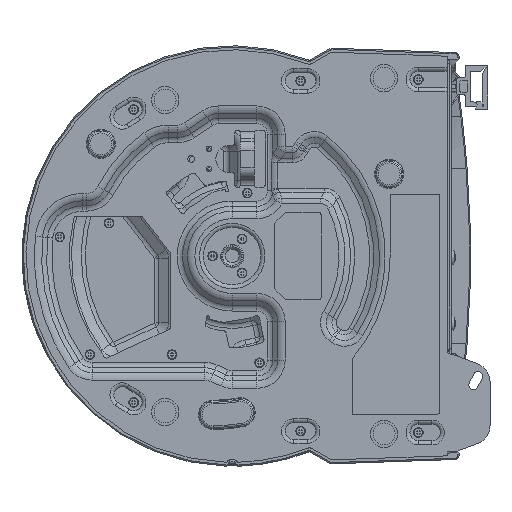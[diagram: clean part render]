
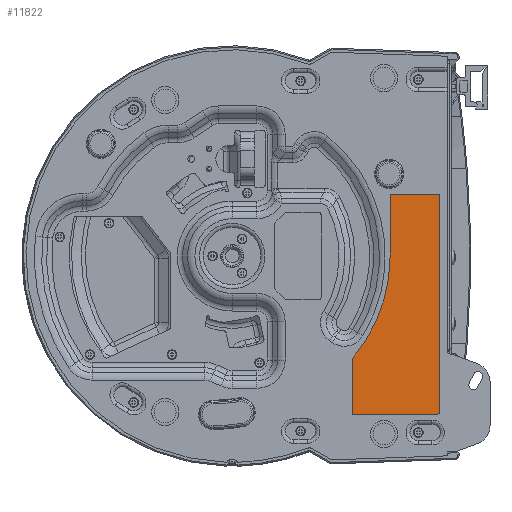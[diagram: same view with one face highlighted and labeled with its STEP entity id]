
A CAD part, front view. The second image highlights one B-rep face of the part: STEP entity #11822.
In plain terms, the highlighted planar face has unit normal (0, -1, 0).
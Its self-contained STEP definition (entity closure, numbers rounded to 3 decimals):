
#3633=LINE('',#116317,#6388);
#3636=LINE('',#116323,#6391);
#3638=LINE('',#116327,#6393);
#3641=LINE('',#116333,#6396);
#3643=LINE('',#116337,#6398);
#6388=VECTOR('',#55685,1.);
#6391=VECTOR('',#55690,1.);
#6393=VECTOR('',#55694,1.);
#6396=VECTOR('',#55699,1.);
#6398=VECTOR('',#55703,1.);
#11822=ADVANCED_FACE('',(#15325),#13016,.F.);
#13016=PLANE('',#47212);
#15325=FACE_OUTER_BOUND('',#18113,.T.);
#18113=EDGE_LOOP('',(#28935,#28936,#28937,#28938,#28939,#28940,#28941));
#28935=ORIENTED_EDGE('',*,*,#41177,.T.);
#28936=ORIENTED_EDGE('',*,*,#41186,.T.);
#28937=ORIENTED_EDGE('',*,*,#41179,.T.);
#28938=ORIENTED_EDGE('',*,*,#41182,.T.);
#28939=ORIENTED_EDGE('',*,*,#41184,.T.);
#28940=ORIENTED_EDGE('',*,*,#41185,.T.);
#28941=ORIENTED_EDGE('',*,*,#41174,.T.);
#35143=VERTEX_POINT('',#116316);
#35144=VERTEX_POINT('',#116318);
#35145=VERTEX_POINT('',#116322);
#35146=VERTEX_POINT('',#116326);
#35147=VERTEX_POINT('',#116328);
#35148=VERTEX_POINT('',#116332);
#35149=VERTEX_POINT('',#116336);
#41174=EDGE_CURVE('',#35144,#35143,#3633,.T.);
#41177=EDGE_CURVE('',#35143,#35145,#3636,.T.);
#41179=EDGE_CURVE('',#35147,#35146,#3638,.T.);
#41182=EDGE_CURVE('',#35146,#35148,#3641,.T.);
#41184=EDGE_CURVE('',#35148,#35149,#3643,.T.);
#41185=EDGE_CURVE('',#35149,#35144,#44038,.T.);
#41186=EDGE_CURVE('',#35145,#35147,#44039,.T.);
#44038=CIRCLE('',#47209,57.7);
#44039=CIRCLE('',#47211,1.);
#47209=AXIS2_PLACEMENT_3D('',#116339,#55706,#55707);
#47211=AXIS2_PLACEMENT_3D('',#116341,#55710,#55711);
#47212=AXIS2_PLACEMENT_3D('',#116342,#55712,#55713);
#55685=DIRECTION('',(0.,0.,-1.));
#55690=DIRECTION('',(1.,0.,0.));
#55694=DIRECTION('',(0.,0.,1.));
#55699=DIRECTION('',(-1.,0.,0.));
#55703=DIRECTION('',(0.,0.,-1.));
#55706=DIRECTION('',(0.,1.,0.));
#55707=DIRECTION('',(1.,0.,0.));
#55710=DIRECTION('',(0.,-1.,0.));
#55711=DIRECTION('',(0.,0.,1.));
#55712=DIRECTION('',(0.,1.,0.));
#55713=DIRECTION('',(0.,0.,1.));
#116316=CARTESIAN_POINT('',(44.,-136.7,-57.8));
#116317=CARTESIAN_POINT('',(44.,-136.7,-37.327));
#116318=CARTESIAN_POINT('',(44.,-136.7,-37.327));
#116322=CARTESIAN_POINT('',(74.8,-136.7,-57.8));
#116323=CARTESIAN_POINT('',(44.,-136.7,-57.8));
#116326=CARTESIAN_POINT('',(75.8,-136.7,22.5));
#116327=CARTESIAN_POINT('',(75.8,-136.7,-57.8));
#116328=CARTESIAN_POINT('',(75.8,-136.7,-56.8));
#116332=CARTESIAN_POINT('',(57.7,-136.7,22.5));
#116333=CARTESIAN_POINT('',(75.8,-136.7,22.5));
#116336=CARTESIAN_POINT('',(57.7,-136.7,0.));
#116337=CARTESIAN_POINT('',(57.7,-136.7,22.5));
#116339=CARTESIAN_POINT('',(0.,-136.7,0.));
#116341=CARTESIAN_POINT('',(74.8,-136.7,-56.8));
#116342=CARTESIAN_POINT('',(0.,-136.7,0.));
